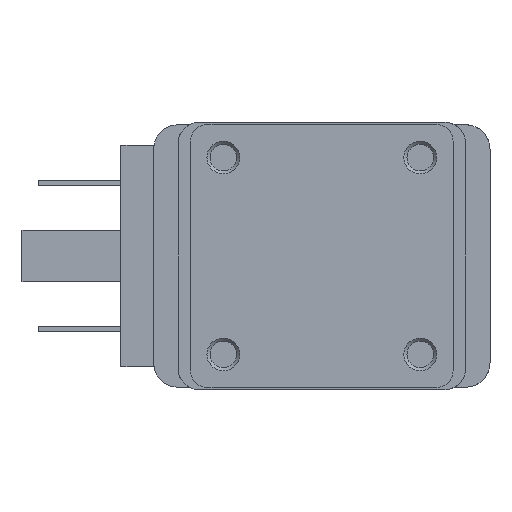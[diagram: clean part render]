
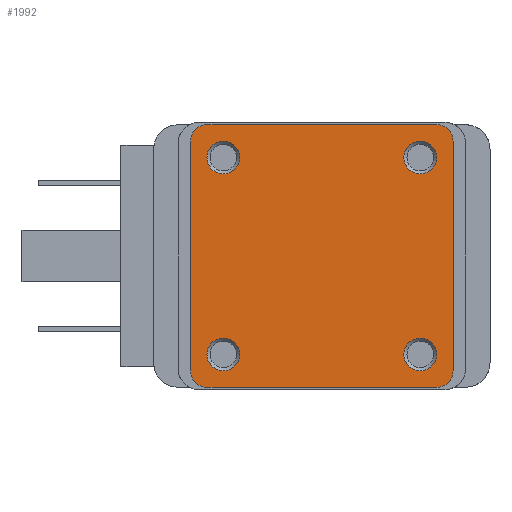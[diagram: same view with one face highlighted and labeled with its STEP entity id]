
A CAD part, front view. The second image highlights one B-rep face of the part: STEP entity #1992.
In plain terms, the highlighted planar face has unit normal (0, -1, 0).
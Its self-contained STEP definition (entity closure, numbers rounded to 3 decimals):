
#86=CIRCLE('',#2109,2.);
#87=CIRCLE('',#2112,2.);
#89=CIRCLE('',#2116,2.);
#90=CIRCLE('',#2119,2.);
#92=CIRCLE('',#2123,2.);
#93=CIRCLE('',#2124,2.);
#94=CIRCLE('',#2125,2.);
#95=CIRCLE('',#2126,2.);
#428=ORIENTED_EDGE('',*,*,#638,.F.);
#429=ORIENTED_EDGE('',*,*,#639,.F.);
#430=ORIENTED_EDGE('',*,*,#640,.F.);
#431=ORIENTED_EDGE('',*,*,#641,.F.);
#432=ORIENTED_EDGE('',*,*,#621,.F.);
#433=ORIENTED_EDGE('',*,*,#637,.F.);
#434=ORIENTED_EDGE('',*,*,#634,.F.);
#435=ORIENTED_EDGE('',*,*,#632,.F.);
#436=ORIENTED_EDGE('',*,*,#630,.F.);
#437=ORIENTED_EDGE('',*,*,#628,.F.);
#438=ORIENTED_EDGE('',*,*,#625,.F.);
#439=ORIENTED_EDGE('',*,*,#623,.F.);
#621=EDGE_CURVE('',#755,#756,#86,.T.);
#623=EDGE_CURVE('',#756,#757,#898,.T.);
#625=EDGE_CURVE('',#757,#758,#87,.T.);
#628=EDGE_CURVE('',#758,#760,#901,.T.);
#630=EDGE_CURVE('',#760,#761,#89,.T.);
#632=EDGE_CURVE('',#761,#762,#904,.T.);
#634=EDGE_CURVE('',#762,#763,#90,.T.);
#637=EDGE_CURVE('',#763,#755,#907,.T.);
#638=EDGE_CURVE('',#765,#765,#92,.T.);
#639=EDGE_CURVE('',#766,#766,#93,.T.);
#640=EDGE_CURVE('',#767,#767,#94,.T.);
#641=EDGE_CURVE('',#768,#768,#95,.T.);
#755=VERTEX_POINT('',#2879);
#756=VERTEX_POINT('',#2881);
#757=VERTEX_POINT('',#2885);
#758=VERTEX_POINT('',#2889);
#760=VERTEX_POINT('',#2895);
#761=VERTEX_POINT('',#2899);
#762=VERTEX_POINT('',#2903);
#763=VERTEX_POINT('',#2907);
#765=VERTEX_POINT('',#2915);
#766=VERTEX_POINT('',#2917);
#767=VERTEX_POINT('',#2919);
#768=VERTEX_POINT('',#2921);
#898=LINE('',#2884,#1023);
#901=LINE('',#2894,#1026);
#904=LINE('',#2902,#1029);
#907=LINE('',#2912,#1032);
#1023=VECTOR('',#2465,1000.);
#1026=VECTOR('',#2476,1000.);
#1029=VECTOR('',#2485,1000.);
#1032=VECTOR('',#2496,1000.);
#1111=EDGE_LOOP('',(#428));
#1112=EDGE_LOOP('',(#429));
#1113=EDGE_LOOP('',(#430));
#1114=EDGE_LOOP('',(#431));
#1115=EDGE_LOOP('',(#432,#433,#434,#435,#436,#437,#438,#439));
#1228=FACE_BOUND('',#1111,.T.);
#1229=FACE_BOUND('',#1112,.T.);
#1230=FACE_BOUND('',#1113,.T.);
#1231=FACE_BOUND('',#1114,.T.);
#1232=FACE_BOUND('',#1115,.T.);
#1315=PLANE('',#2122);
#1992=ADVANCED_FACE('',(#1228,#1229,#1230,#1231,#1232),#1315,.F.);
#2109=AXIS2_PLACEMENT_3D('',#2880,#2460,#2461);
#2112=AXIS2_PLACEMENT_3D('',#2888,#2469,#2470);
#2116=AXIS2_PLACEMENT_3D('',#2898,#2480,#2481);
#2119=AXIS2_PLACEMENT_3D('',#2906,#2489,#2490);
#2122=AXIS2_PLACEMENT_3D('',#2913,#2497,#2498);
#2123=AXIS2_PLACEMENT_3D('',#2914,#2499,#2500);
#2124=AXIS2_PLACEMENT_3D('',#2916,#2501,#2502);
#2125=AXIS2_PLACEMENT_3D('',#2918,#2503,#2504);
#2126=AXIS2_PLACEMENT_3D('',#2920,#2505,#2506);
#2460=DIRECTION('',(0.,1.,0.));
#2461=DIRECTION('',(1.,0.,0.));
#2465=DIRECTION('',(0.,0.,1.));
#2469=DIRECTION('',(0.,1.,0.));
#2470=DIRECTION('',(1.,0.,0.));
#2476=DIRECTION('',(1.,0.,0.));
#2480=DIRECTION('',(0.,1.,0.));
#2481=DIRECTION('',(1.,0.,0.));
#2485=DIRECTION('',(0.,0.,-1.));
#2489=DIRECTION('',(0.,1.,0.));
#2490=DIRECTION('',(1.,0.,0.));
#2496=DIRECTION('',(-1.,0.,0.));
#2497=DIRECTION('',(0.,1.,0.));
#2498=DIRECTION('',(0.,0.,1.));
#2499=DIRECTION('',(0.,-1.,0.));
#2500=DIRECTION('',(0.,0.,-1.));
#2501=DIRECTION('',(0.,-1.,0.));
#2502=DIRECTION('',(0.,0.,-1.));
#2503=DIRECTION('',(0.,-1.,0.));
#2504=DIRECTION('',(0.,0.,-1.));
#2505=DIRECTION('',(0.,-1.,0.));
#2506=DIRECTION('',(0.,0.,-1.));
#2879=CARTESIAN_POINT('',(6.5,-20.8,-32.));
#2880=CARTESIAN_POINT('',(6.5,-20.8,-30.));
#2881=CARTESIAN_POINT('',(4.5,-20.8,-30.));
#2884=CARTESIAN_POINT('',(4.5,-20.8,-30.));
#2885=CARTESIAN_POINT('',(4.5,-20.8,-2.));
#2888=CARTESIAN_POINT('',(6.5,-20.8,-2.));
#2889=CARTESIAN_POINT('',(6.5,-20.8,0.));
#2894=CARTESIAN_POINT('',(6.5,-20.8,0.));
#2895=CARTESIAN_POINT('',(34.5,-20.8,0.));
#2898=CARTESIAN_POINT('',(34.5,-20.8,-2.));
#2899=CARTESIAN_POINT('',(36.5,-20.8,-2.));
#2902=CARTESIAN_POINT('',(36.5,-20.8,-2.));
#2903=CARTESIAN_POINT('',(36.5,-20.8,-30.));
#2906=CARTESIAN_POINT('',(34.5,-20.8,-30.));
#2907=CARTESIAN_POINT('',(34.5,-20.8,-32.));
#2912=CARTESIAN_POINT('',(34.5,-20.8,-32.));
#2913=CARTESIAN_POINT('',(6.5,-20.8,-30.));
#2914=CARTESIAN_POINT('',(8.5,-20.8,-28.));
#2915=CARTESIAN_POINT('',(8.5,-20.8,-30.));
#2916=CARTESIAN_POINT('',(32.5,-20.8,-4.));
#2917=CARTESIAN_POINT('',(32.5,-20.8,-6.));
#2918=CARTESIAN_POINT('',(32.5,-20.8,-28.));
#2919=CARTESIAN_POINT('',(32.5,-20.8,-30.));
#2920=CARTESIAN_POINT('',(8.5,-20.8,-4.));
#2921=CARTESIAN_POINT('',(8.5,-20.8,-6.));
